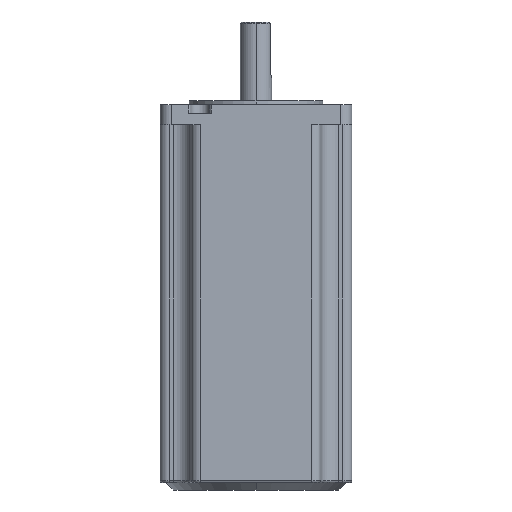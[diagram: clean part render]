
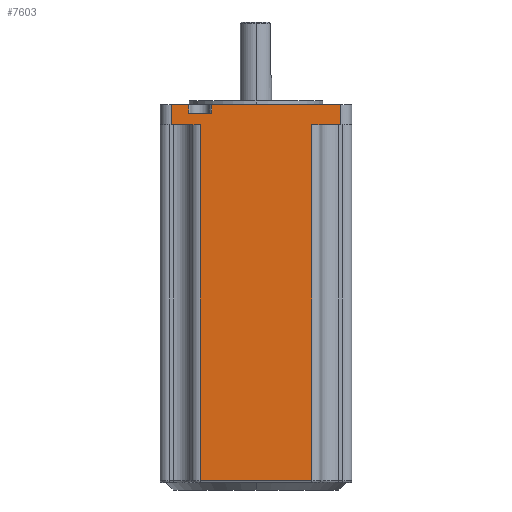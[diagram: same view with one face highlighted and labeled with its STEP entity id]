
A CAD part, left-side view. The second image highlights one B-rep face of the part: STEP entity #7603.
In plain terms, the highlighted planar face has unit normal (-1, 0, 0).
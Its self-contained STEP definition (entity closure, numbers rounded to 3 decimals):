
#354=DIRECTION('',(0.,0.,1.));
#355=VECTOR('',#354,159.5);
#356=CARTESIAN_POINT('',(0.,68.,-107.5));
#357=LINE('',#356,#355);
#362=DIRECTION('',(0.,1.,0.));
#363=VECTOR('',#362,7.75);
#364=CARTESIAN_POINT('',(0.,73.25,61.));
#365=LINE('',#364,#363);
#366=DIRECTION('',(0.,1.,0.));
#367=VECTOR('',#366,57.75);
#368=CARTESIAN_POINT('',(0.,5.,61.));
#369=LINE('',#368,#367);
#374=DIRECTION('',(0.,0.,-1.));
#375=VECTOR('',#374,159.5);
#376=CARTESIAN_POINT('',(0.,18.,52.));
#377=LINE('',#376,#375);
#591=DIRECTION('',(0.,1.,0.));
#592=VECTOR('',#591,50.);
#593=CARTESIAN_POINT('',(0.,18.,-107.5));
#594=LINE('',#593,#592);
#5232=DIRECTION('',(0.,1.,0.));
#5233=VECTOR('',#5232,13.);
#5234=CARTESIAN_POINT('',(0.,5.,52.));
#5235=LINE('',#5234,#5233);
#5255=DIRECTION('',(0.,0.,-1.));
#5256=VECTOR('',#5255,9.);
#5257=CARTESIAN_POINT('',(0.,5.,61.));
#5258=LINE('',#5257,#5256);
#5351=DIRECTION('',(0.,1.,0.));
#5352=VECTOR('',#5351,13.);
#5353=CARTESIAN_POINT('',(0.,68.,52.));
#5354=LINE('',#5353,#5352);
#5393=DIRECTION('',(0.,0.,1.));
#5394=VECTOR('',#5393,9.);
#5395=CARTESIAN_POINT('',(0.,81.,52.));
#5396=LINE('',#5395,#5394);
#5409=DIRECTION('',(0.,0.,-1.));
#5410=VECTOR('',#5409,4.);
#5411=CARTESIAN_POINT('',(0.,73.25,61.));
#5412=LINE('',#5411,#5410);
#5417=DIRECTION('',(0.,-1.,0.));
#5418=VECTOR('',#5417,10.5);
#5419=CARTESIAN_POINT('',(0.,73.25,57.));
#5420=LINE('',#5419,#5418);
#5462=DIRECTION('',(0.,0.,1.));
#5463=VECTOR('',#5462,4.);
#5464=CARTESIAN_POINT('',(0.,62.75,57.));
#5465=LINE('',#5464,#5463);
#6140=CARTESIAN_POINT('',(0.,68.,-107.5));
#6142=VERTEX_POINT('',#6140);
#6143=CARTESIAN_POINT('',(0.,18.,-107.5));
#6145=VERTEX_POINT('',#6143);
#6211=CARTESIAN_POINT('',(0.,68.,52.));
#6212=VERTEX_POINT('',#6211);
#6213=CARTESIAN_POINT('',(0.,73.25,57.));
#6214=CARTESIAN_POINT('',(0.,62.75,57.));
#6215=VERTEX_POINT('',#6213);
#6216=VERTEX_POINT('',#6214);
#6225=CARTESIAN_POINT('',(0.,18.,52.));
#6226=VERTEX_POINT('',#6225);
#6261=CARTESIAN_POINT('',(0.,5.,52.));
#6262=VERTEX_POINT('',#6261);
#6267=CARTESIAN_POINT('',(0.,81.,52.));
#6268=VERTEX_POINT('',#6267);
#6293=CARTESIAN_POINT('',(0.,5.,61.));
#6294=VERTEX_POINT('',#6293);
#6296=CARTESIAN_POINT('',(0.,62.75,61.));
#6298=VERTEX_POINT('',#6296);
#6305=CARTESIAN_POINT('',(0.,73.25,61.));
#6306=VERTEX_POINT('',#6305);
#6307=CARTESIAN_POINT('',(0.,81.,61.));
#6308=VERTEX_POINT('',#6307);
#7575=CARTESIAN_POINT('',(0.,86.,22.5));
#7576=DIRECTION('',(1.,0.,0.));
#7577=DIRECTION('',(0.,1.,0.));
#7578=AXIS2_PLACEMENT_3D('',#7575,#7576,#7577);
#7579=PLANE('',#7578);
#7581=ORIENTED_EDGE('',*,*,#7580,.T.);
#7583=ORIENTED_EDGE('',*,*,#7582,.T.);
#7584=ORIENTED_EDGE('',*,*,#7565,.T.);
#7586=ORIENTED_EDGE('',*,*,#7585,.T.);
#7588=ORIENTED_EDGE('',*,*,#7587,.T.);
#7589=ORIENTED_EDGE('',*,*,#7302,.F.);
#7591=ORIENTED_EDGE('',*,*,#7590,.T.);
#7593=ORIENTED_EDGE('',*,*,#7592,.T.);
#7595=ORIENTED_EDGE('',*,*,#7594,.T.);
#7596=ORIENTED_EDGE('',*,*,#7290,.F.);
#7598=ORIENTED_EDGE('',*,*,#7597,.T.);
#7600=ORIENTED_EDGE('',*,*,#7599,.T.);
#7601=EDGE_LOOP('',(#7581,#7583,#7584,#7586,#7588,#7589,#7591,#7593,#7595,#7596,
#7598,#7600));
#7602=FACE_OUTER_BOUND('',#7601,.F.);
#7603=ADVANCED_FACE('',(#7602),#7579,.F.);
#7290=EDGE_CURVE('',#6294,#6298,#369,.T.);
#7302=EDGE_CURVE('',#6306,#6308,#365,.T.);
#7565=EDGE_CURVE('',#6142,#6212,#357,.T.);
#7580=EDGE_CURVE('',#6226,#6145,#377,.T.);
#7582=EDGE_CURVE('',#6145,#6142,#594,.T.);
#7585=EDGE_CURVE('',#6212,#6268,#5354,.T.);
#7587=EDGE_CURVE('',#6268,#6308,#5396,.T.);
#7590=EDGE_CURVE('',#6306,#6215,#5412,.T.);
#7592=EDGE_CURVE('',#6215,#6216,#5420,.T.);
#7594=EDGE_CURVE('',#6216,#6298,#5465,.T.);
#7597=EDGE_CURVE('',#6294,#6262,#5258,.T.);
#7599=EDGE_CURVE('',#6262,#6226,#5235,.T.);
